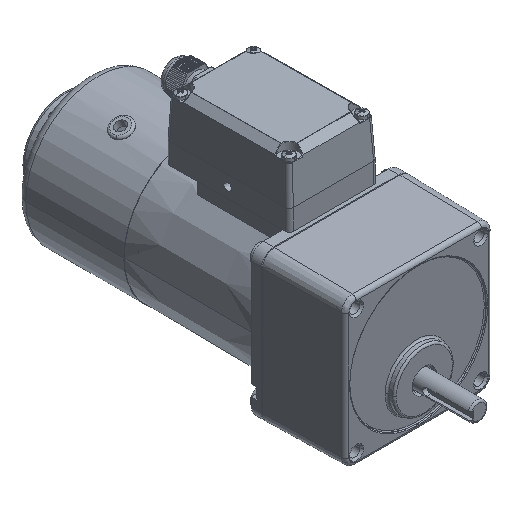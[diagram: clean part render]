
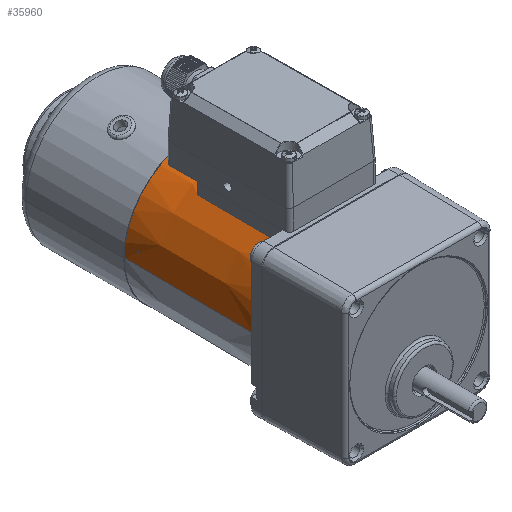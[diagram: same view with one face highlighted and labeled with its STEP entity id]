
A CAD part, isometric view. The second image highlights one B-rep face of the part: STEP entity #35960.
In plain terms, the highlighted conical face has half-angle 0.47 degrees and reference radius 38.662 mm.
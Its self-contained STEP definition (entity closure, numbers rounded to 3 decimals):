
#330 = AXIS2_PLACEMENT_3D ( 'NONE', #21938, #51088, #6554 ) ;
#459 = VERTEX_POINT ( 'NONE', #42523 ) ;
#567 = CARTESIAN_POINT ( 'NONE',  ( 21.727, 31.333, 32.013 ) ) ;
#786 = ORIENTED_EDGE ( 'NONE', *, *, #10400, .F. ) ;
#1352 = EDGE_CURVE ( 'NONE', #30511, #459, #8876, .T. ) ;
#2250 = CARTESIAN_POINT ( 'NONE',  ( -21.59, 47., 31.951 ) ) ;
#2755 = AXIS2_PLACEMENT_3D ( 'NONE', #28342, #15873, #44507 ) ;
#3405 = B_SPLINE_CURVE_WITH_KNOTS ( 'NONE', 3,
 ( #42294, #10734, #50761, #2250 ),
 .UNSPECIFIED., .F., .F.,
 ( 4, 4 ),
 ( 0., 1. ),
 .UNSPECIFIED. ) ;
#3447 = AXIS2_PLACEMENT_3D ( 'NONE', #48862, #28731, #49641 ) ;
#3605 = CIRCLE ( 'NONE', #2755, 38.947 ) ;
#4560 = CARTESIAN_POINT ( 'NONE',  ( 21.863, 15.667, 32.076 ) ) ;
#5500 = CARTESIAN_POINT ( 'NONE',  ( 0., 0., 0. ) ) ;
#6554 = DIRECTION ( 'NONE',  ( -1., 0., 0. ) ) ;
#7232 = EDGE_CURVE ( 'NONE', #30511, #7617, #3605, .T. ) ;
#7617 = VERTEX_POINT ( 'NONE', #21235 ) ;
#8339 = CARTESIAN_POINT ( 'NONE',  ( -21.59, 47., 31.951 ) ) ;
#8373 = CIRCLE ( 'NONE', #38024, 38.561 ) ;
#8399 = EDGE_CURVE ( 'NONE', #37231, #9362, #8373, .T. ) ;
#8534 = CARTESIAN_POINT ( 'NONE',  ( 22., 0., 32.138 ) ) ;
#8876 = LINE ( 'NONE', #24281, #44970 ) ;
#8967 = CARTESIAN_POINT ( 'NONE',  ( 21.59, 47., 31.951 ) ) ;
#9362 = VERTEX_POINT ( 'NONE', #8967 ) ;
#10400 = EDGE_CURVE ( 'NONE', #24793, #9362, #14422, .T. ) ;
#10734 = CARTESIAN_POINT ( 'NONE',  ( -21.863, 15.667, 32.076 ) ) ;
#12436 = CARTESIAN_POINT ( 'NONE',  ( 38.947, 0., 0. ) ) ;
#13119 = CARTESIAN_POINT ( 'NONE',  ( 38.947, 0., 0. ) ) ;
#13311 = DIRECTION ( 'NONE',  ( -0.56, 0., 0.829 ) ) ;
#14296 = CARTESIAN_POINT ( 'NONE',  ( 21.59, 47., 31.951 ) ) ;
#14422 = B_SPLINE_CURVE_WITH_KNOTS ( 'NONE', 3,
 ( #8534, #4560, #567, #14296 ),
 .UNSPECIFIED., .F., .F.,
 ( 4, 4 ),
 ( 0., 1. ),
 .UNSPECIFIED. ) ;
#14667 = EDGE_CURVE ( 'NONE', #24793, #30206, #41855, .T. ) ;
#15873 = DIRECTION ( 'NONE',  ( 0., 1., 0. ) ) ;
#21235 = CARTESIAN_POINT ( 'NONE',  ( -22., 0., 32.138 ) ) ;
#21587 = ORIENTED_EDGE ( 'NONE', *, *, #42190, .T. ) ;
#21684 = DIRECTION ( 'NONE',  ( 0., 1., 0. ) ) ;
#21938 = CARTESIAN_POINT ( 'NONE',  ( 0., 34.75, 0. ) ) ;
#23286 = ORIENTED_EDGE ( 'NONE', *, *, #8399, .T. ) ;
#24202 = ORIENTED_EDGE ( 'NONE', *, *, #30646, .F. ) ;
#24281 = CARTESIAN_POINT ( 'NONE',  ( -38.947, 0., 0. ) ) ;
#24766 = CARTESIAN_POINT ( 'NONE',  ( 0., 47., 0. ) ) ;
#24793 = VERTEX_POINT ( 'NONE', #51407 ) ;
#26304 = CIRCLE ( 'NONE', #3447, 38.377 ) ;
#28123 = EDGE_CURVE ( 'NONE', #7617, #37231, #3405, .T. ) ;
#28342 = CARTESIAN_POINT ( 'NONE',  ( 0., 0., 0. ) ) ;
#28640 = LINE ( 'NONE', #12436, #40641 ) ;
#28731 = DIRECTION ( 'NONE',  ( 0., 1., 0. ) ) ;
#28741 = CARTESIAN_POINT ( 'NONE',  ( 38.377, 69.5, 0. ) ) ;
#30206 = VERTEX_POINT ( 'NONE', #13119 ) ;
#30511 = VERTEX_POINT ( 'NONE', #44396 ) ;
#30646 = EDGE_CURVE ( 'NONE', #459, #39032, #26304, .T. ) ;
#33005 = DIRECTION ( 'NONE',  ( 0.008, 1., 0. ) ) ;
#33246 = DIRECTION ( 'NONE',  ( 0., 1., 0. ) ) ;
#35918 = CONICAL_SURFACE ( 'NONE', #330, 38.662, 0.008 ) ;
#35960 = ADVANCED_FACE ( 'NONE', ( #46071 ), #35918, .T. ) ;
#36862 = DIRECTION ( 'NONE',  ( -0.008, 1., 0. ) ) ;
#37231 = VERTEX_POINT ( 'NONE', #8339 ) ;
#37516 = ORIENTED_EDGE ( 'NONE', *, *, #28123, .T. ) ;
#38024 = AXIS2_PLACEMENT_3D ( 'NONE', #24766, #33246, #13311 ) ;
#39032 = VERTEX_POINT ( 'NONE', #28741 ) ;
#40641 = VECTOR ( 'NONE', #36862, 1000. ) ;
#41745 = EDGE_LOOP ( 'NONE', ( #786, #46059, #21587, #24202, #52245, #45219, #37516, #23286 ) ) ;
#41855 = CIRCLE ( 'NONE', #45336, 38.947 ) ;
#42086 = DIRECTION ( 'NONE',  ( 0.565, 0., 0.825 ) ) ;
#42190 = EDGE_CURVE ( 'NONE', #30206, #39032, #28640, .T. ) ;
#42294 = CARTESIAN_POINT ( 'NONE',  ( -22., 0., 32.138 ) ) ;
#42523 = CARTESIAN_POINT ( 'NONE',  ( -38.377, 69.5, 0. ) ) ;
#44396 = CARTESIAN_POINT ( 'NONE',  ( -38.947, 0., 0. ) ) ;
#44507 = DIRECTION ( 'NONE',  ( -1., 0., 0. ) ) ;
#44970 = VECTOR ( 'NONE', #33005, 1000. ) ;
#45219 = ORIENTED_EDGE ( 'NONE', *, *, #7232, .T. ) ;
#45336 = AXIS2_PLACEMENT_3D ( 'NONE', #5500, #21684, #42086 ) ;
#46059 = ORIENTED_EDGE ( 'NONE', *, *, #14667, .T. ) ;
#46071 = FACE_OUTER_BOUND ( 'NONE', #41745, .T. ) ;
#48862 = CARTESIAN_POINT ( 'NONE',  ( 0., 69.5, 0. ) ) ;
#49641 = DIRECTION ( 'NONE',  ( -1., 0., 0. ) ) ;
#50761 = CARTESIAN_POINT ( 'NONE',  ( -21.727, 31.333, 32.013 ) ) ;
#51088 = DIRECTION ( 'NONE',  ( 0., -1., 0. ) ) ;
#51407 = CARTESIAN_POINT ( 'NONE',  ( 22., 0., 32.138 ) ) ;
#52245 = ORIENTED_EDGE ( 'NONE', *, *, #1352, .F. ) ;
